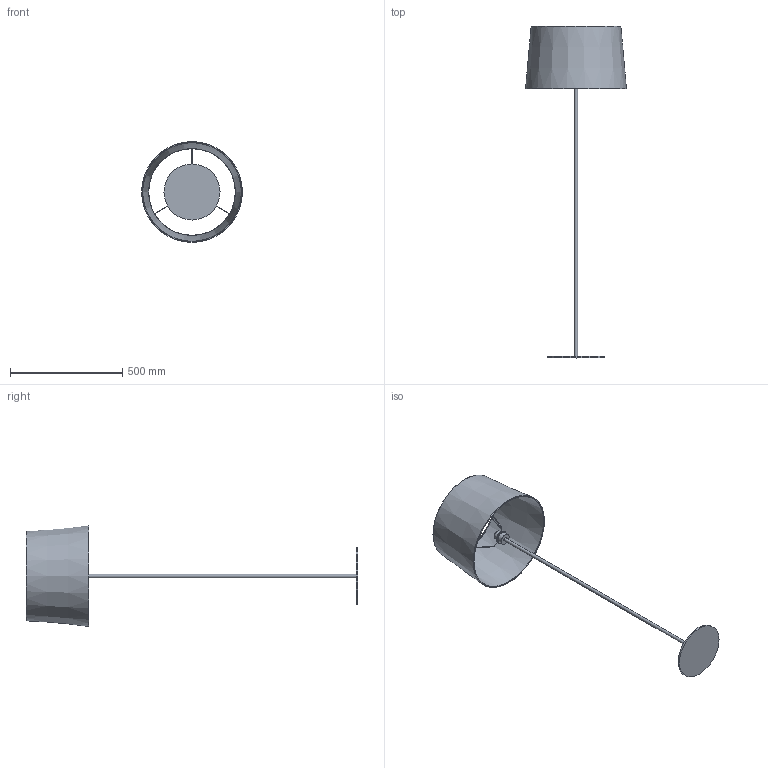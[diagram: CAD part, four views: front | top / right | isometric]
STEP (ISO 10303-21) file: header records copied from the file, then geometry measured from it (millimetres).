
FILE_DESCRIPTION(/* description */ (''),/* implementation_level */ '2;1');
FILE_NAME(/* name */ 'C:/Users/kubaw/OneDrive/Pulpit/Nowy folder/2919_MAJA/2919_MAJA v5.step',/* time_stamp */ '2021-03-13T09:35:15+01:00',/* author */ (''),/* organization */ (''),/* preprocessor_version */ 'ST-DEVELOPER v18.1',/* originating_system */ 'Autodesk Translation Framework v9.10.0.1330',/* authorisation */ '');
FILE_SCHEMA (('AUTOMOTIVE_DESIGN { 1 0 10303 214 3 1 1 }'));
Length unit declared in the file: millimetre
Products named in the file (2): 2919_MAJA; MOCOWANIE_MAJA
Assembly tree (1 placements, depth 2):
  2919_MAJA
    MOCOWANIE_MAJA
Bounding box: 449.71 x 1480 x 449.71 mm (x, y, z)
Volume: 2536276.6 mm3; surface area: 951021.1 mm2
Topology: 11 solids, 11 shells, 53 faces, 82 edges, 54 vertices
Faces by surface type: plane 25, cylinder 16, torus 9, cone 2, bspline 1
Full cylindrical faces by diameter (mm): 2 x6, 15 x1, 31 x1, 36 x1, 37 x1, 40 x1, 50 x1, 56 x1, 58 x1, 250 x1, 386 x1
Entity records: 1391 total; most frequent: CARTESIAN_POINT 311, DIRECTION 250, ORIENTED_EDGE 164, AXIS2_PLACEMENT_3D 116, EDGE_CURVE 82, CIRCLE 61, EDGE_LOOP 60, VERTEX_POINT 54
